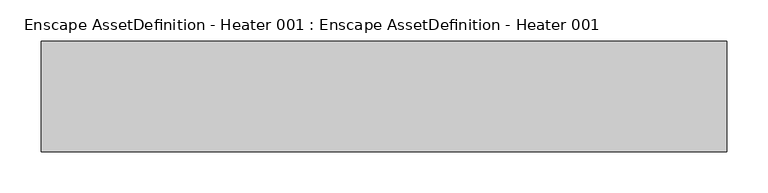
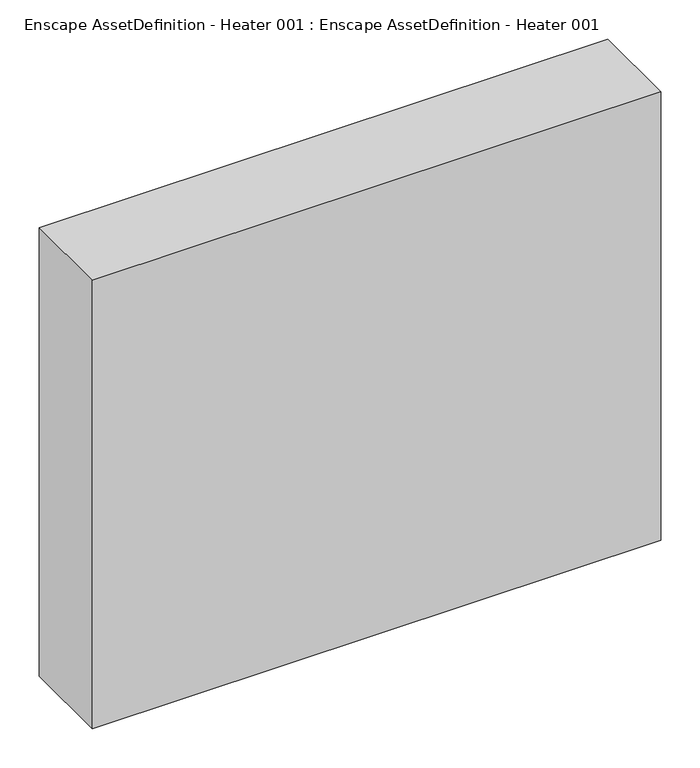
"""IFC4 building model written with IfcOpenShell, lengths in millimetres: geographic element geometry, Enscape AssetDefinition - Heater 001 : Enscape AssetDefinition - Heater 001."""

from ifc_helpers import new_model, si_unit, origin, place, context, project, spatial, triangles, source, transform, mapped, element, save


def enscape_assetdefinition_heater_001_enscape_assetdefinition_c588bdaf(model_context):
    return source(origin(), model_context, "Body", "Tessellation", [
        triangles([(414.6380267, -134.2310055, 795.8070208), (414.6380267, 0.0, 795.8070208), (-418.4759829, 0.0, 795.8070208), (-418.4759829, -134.2310055, 795.8070208), (-418.4759829, -134.2310055, 100.6129993), (-418.4759829, 0.0, 100.6129993), (414.6380267, -134.2310055, 100.6129993), (414.6380267, 0.0, 100.6129993)], [[7, 6, 8], [5, 6, 7], [2, 8, 6], [3, 2, 6], [1, 7, 8], [2, 1, 8], [4, 5, 7], [1, 4, 7], [3, 6, 5], [4, 3, 5], [1, 2, 3], [4, 1, 3]]),
    ])


if __name__ == "__main__":
    model = new_model("IFC4")
    model_context = context("Model", 3, world=origin())
    ifc_project = project(units=[si_unit("LENGTHUNIT", "METRE", prefix="MILLI")], contexts=[model_context])
    site = spatial("IfcSite", under=ifc_project)
    building = spatial("IfcBuilding", under=site)
    placement = place(None, origin())
    enscape_assetdefinition_heater_001_enscape_assetdefinition_shape = enscape_assetdefinition_heater_001_enscape_assetdefinition_c588bdaf(model_context)
    element("IfcGeographicElement", 1, ObjectType="Enscape AssetDefinition - Heater 001 : Enscape AssetDefinition - Heater 001", at=placement, inside=building, context=model_context, shape_type="MappedRepresentation", body=[
        mapped(enscape_assetdefinition_heater_001_enscape_assetdefinition_shape, transform((0.0, 0.0, 0.0), x_axis=(1.0, 0.0, 0.0), y_axis=(0.0, 1.0, 0.0), z_axis=(0.0, 0.0, 1.0))),
    ])
    save(model, "model.ifc")
